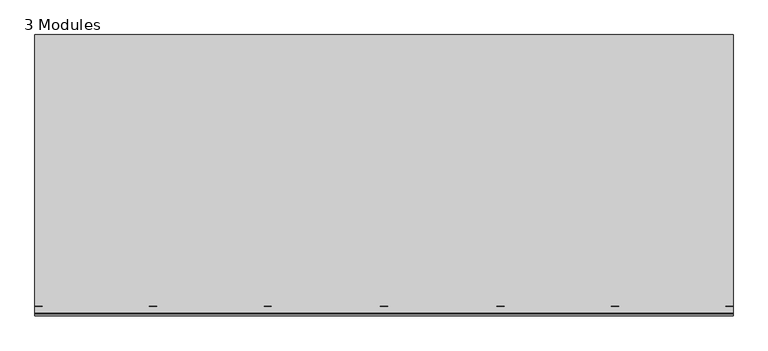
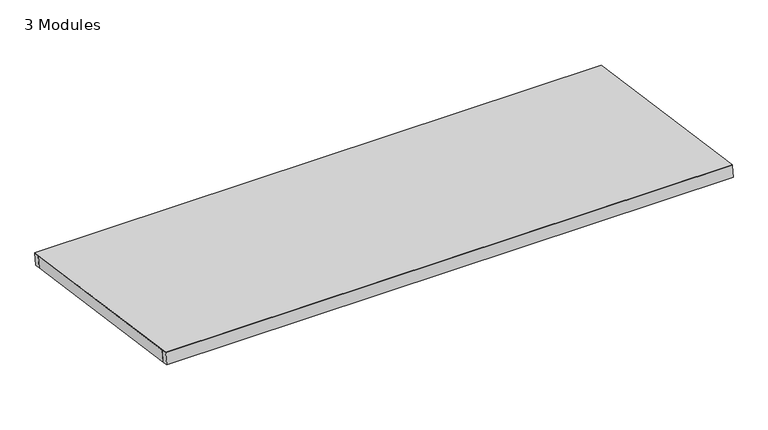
"""IFC4 building model written with IfcOpenShell, lengths in millimetres: proxy geometry, ViVa Roof : 3 Modules."""

from ifc_helpers import new_model, si_unit, frame, origin, place, context, project, spatial, polyline, outline, extrude, source, transform, mapped, element, save


def proxy_3_modules_d1262f84(model_context):
    return source(origin(), model_context, "Body", "SweptSolid", [
        extrude(outline(polyline([(0.0, -40.0), (0.0, 0.0), (1470.0, 0.0), (1470.0, -40.0), (0.0, -40.0)])), frame((1900.0, -1495.3047838, 210.1513824), z_axis=(0.0, 0.1391731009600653, 0.9902680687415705), x_axis=(0.0, 0.9902680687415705, -0.1391731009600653)), (0.0, 0.0, 1.0), 80.0),
        extrude(outline(polyline([(0.0, -40.0), (0.0, 0.0), (1470.0, 0.0), (1470.0, -40.0), (0.0, -40.0)])), frame((2540.0, -1495.3047838, 210.1513824), z_axis=(0.0, 0.1391731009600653, 0.9902680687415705), x_axis=(0.0, 0.9902680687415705, -0.1391731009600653)), (0.0, 0.0, 1.0), 80.0),
        extrude(outline(polyline([(0.0, -40.0), (0.0, 0.0), (1470.0, 0.0), (1470.0, -40.0), (0.0, -40.0)])), frame((3170.0, -1495.3047838, 210.1513824), z_axis=(0.0, 0.1391731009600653, 0.9902680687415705), x_axis=(0.0, 0.9902680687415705, -0.1391731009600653)), (0.0, 0.0, 1.0), 80.0),
        extrude(outline(polyline([(0.0, -40.0), (0.0, 0.0), (1470.0, 0.0), (1470.0, -40.0), (0.0, -40.0)])), frame((1260.0, -1495.3047838, 210.1513824), z_axis=(0.0, 0.1391731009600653, 0.9902680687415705), x_axis=(0.0, 0.9902680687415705, -0.1391731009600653)), (0.0, 0.0, 1.0), 80.0),
        extrude(outline(polyline([(0.0, -40.0), (0.0, 0.0), (1470.0, 0.0), (1470.0, -40.0), (0.0, -40.0)])), frame((630.0, -1495.3047838, 210.1513824), z_axis=(0.0, 0.1391731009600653, 0.9902680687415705), x_axis=(0.0, 0.9902680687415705, -0.1391731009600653)), (0.0, 0.0, 1.0), 80.0),
        extrude(outline(polyline([(0.0, -40.0), (0.0, 0.0), (3840.0, 0.0), (3840.0, -40.0), (0.0, -40.0)])), frame((3840.0, -1534.9155065, 215.7183065), z_axis=(0.0, 0.1391731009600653, 0.9902680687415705), x_axis=(-1.0, 0.0, 0.0)), (0.0, 0.0, 1.0), 80.0),
        extrude(outline(polyline([(0.0, -39.9999999), (0.0, 0.0), (3840.0, 0.0), (3840.0, -39.9999999), (0.0, -39.9999999)])), frame((3840.0, -39.6107227, 5.566924), z_axis=(0.0, 0.1391731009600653, 0.9902680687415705), x_axis=(-1.0, 0.0, 0.0)), (0.0, 0.0, 1.0), 80.0),
        extrude(outline(polyline([(0.0, -40.0), (0.0, 0.0), (1470.0, 0.0), (1470.0, -40.0), (0.0, -40.0)])), frame((3800.0, -1495.3047838, 210.1513824), z_axis=(0.0, 0.1391731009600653, 0.9902680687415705), x_axis=(0.0, 0.9902680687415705, -0.1391731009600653)), (0.0, 0.0, 1.0), 80.0),
        extrude(outline(polyline([(0.0, -40.0), (0.0, 0.0), (1470.0, 0.0), (1470.0, -40.0), (0.0, -40.0)])), frame((0.0, -1495.3047838, 210.1513824), z_axis=(0.0, 0.1391731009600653, 0.9902680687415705), x_axis=(0.0, 0.9902680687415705, -0.1391731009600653)), (0.0, 0.0, 1.0), 80.0),
        extrude(outline(polyline([(3840.0, 0.0), (3840.0, -1550.0000001), (0.0, -1550.0000001), (0.0, 0.0), (3840.0, 0.0)])), frame((0.0, 11.1338481, 79.2214455), z_axis=(0.0, 0.1391731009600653, 0.9902680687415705), x_axis=(1.0, 0.0, 0.0)), (0.0, 0.0, 1.0), 4.0),
    ])


if __name__ == "__main__":
    model = new_model("IFC4")
    model_context = context("Model", 3, world=origin())
    ifc_project = project(units=[si_unit("LENGTHUNIT", "METRE", prefix="MILLI")], contexts=[model_context])
    site = spatial("IfcSite", under=ifc_project)
    building = spatial("IfcBuilding", under=site)
    placement = place(None, origin())
    proxy_3_modules_shape = proxy_3_modules_d1262f84(model_context)
    element("IfcBuildingElementProxy", 1, Name="ViVa Roof : 3 Modules", ObjectType="ViVa Roof : 3 Modules", at=placement, inside=building, context=model_context, shape_type="MappedRepresentation", body=[
        mapped(proxy_3_modules_shape, transform((0.0, 0.0, 0.0), x_axis=(1.0, 0.0, 0.0), y_axis=(0.0, 1.0, 0.0), z_axis=(0.0, 0.0, 1.0))),
    ])
    save(model, "model.ifc")
